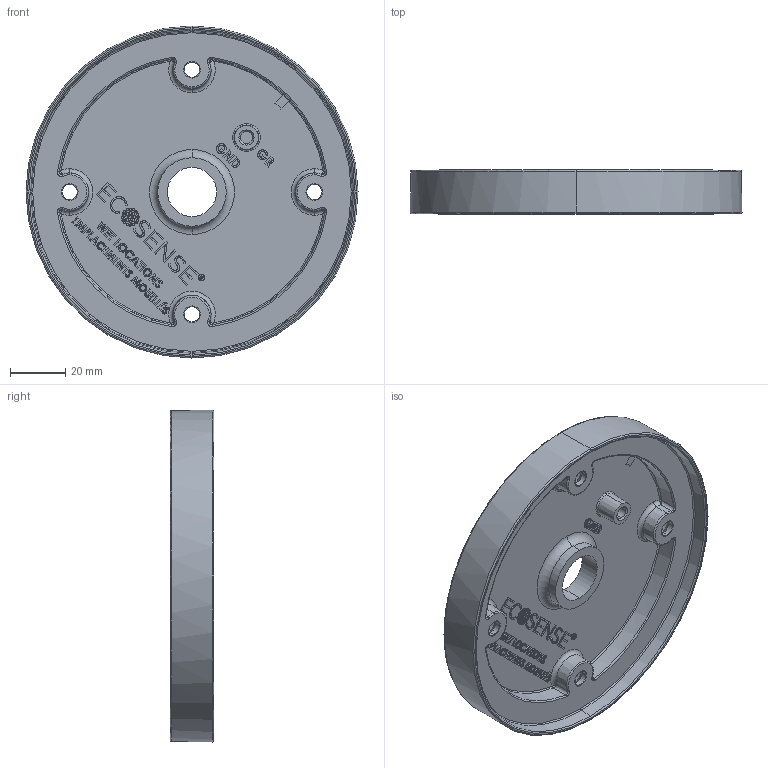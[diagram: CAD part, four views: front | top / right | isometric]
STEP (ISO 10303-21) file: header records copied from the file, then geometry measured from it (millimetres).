
FILE_DESCRIPTION (( 'STEP AP203' ), '1' );
FILE_NAME ('BAS-000003-XX REV A.STEP', '2016-11-16T23:39:30', ( '' ), ( '' ), 'SwSTEP 2.0', 'SolidWorks 2016', '' );
FILE_SCHEMA (( 'CONFIG_CONTROL_DESIGN' ));
Length unit declared in the file: millimetre
Products named in the file (1): BAS-000003-XX REV A
Bounding box: 120.63 x 15.88 x 120.63 mm (x, y, z)
Volume: 71293.5 mm3; surface area: 34407 mm2
Topology: 1 solids, 1 shells, 855 faces, 2234 edges, 1459 vertices
Faces by surface type: plane 438, bspline 304, torus 60, cone 39, cylinder 14
Entity records: 38640 total; most frequent: CARTESIAN_POINT 19995, ORIENTED_EDGE 4448, DIRECTION 2686, EDGE_CURVE 2224, VERTEX_POINT 1459, VECTOR 1184, LINE 1184, EDGE_LOOP 953
